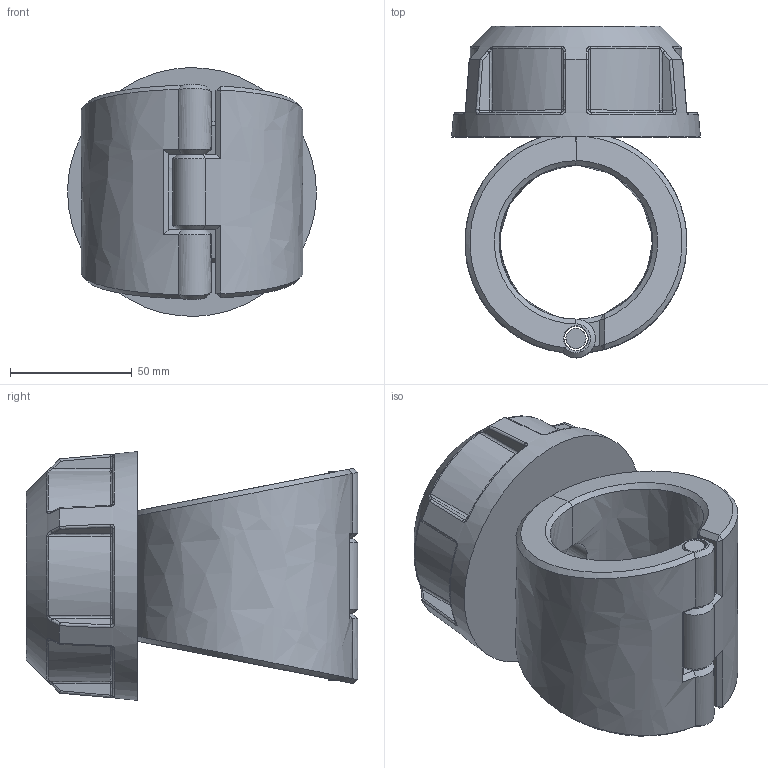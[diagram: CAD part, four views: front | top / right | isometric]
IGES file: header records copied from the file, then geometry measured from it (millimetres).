
Global section: file name: 163000063010; native system: Autodesk Inventor 2019; preprocessor: unknown; author: comp2; date: 20220203.114641; units: millimetre
Bounding box: 102 x 136 x 101.96 mm (x, y, z)
Volume: 488246.5 mm3; surface area: 79254.9 mm2
Topology: 4 solids, 4 shells, 203 faces, 486 edges, 293 vertices
Faces by surface type: bspline 203
